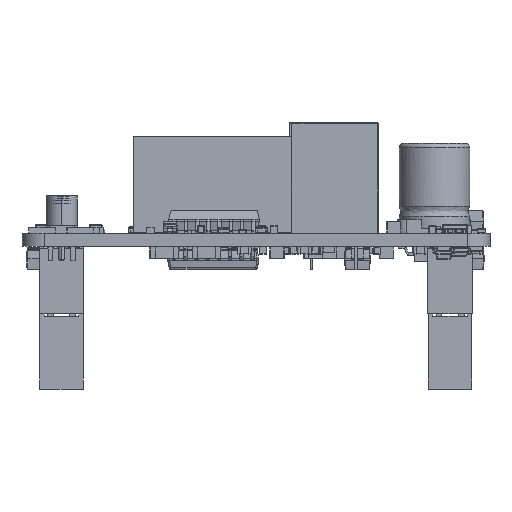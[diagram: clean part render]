
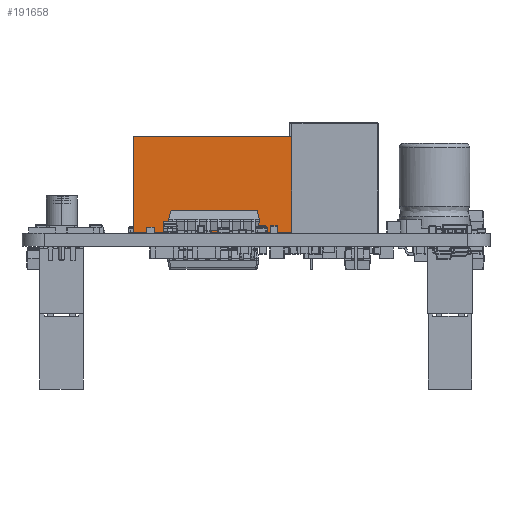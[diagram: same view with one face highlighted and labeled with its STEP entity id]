
A CAD part, front view. The second image highlights one B-rep face of the part: STEP entity #191658.
In plain terms, the highlighted planar face has unit normal (0, -1, 0).
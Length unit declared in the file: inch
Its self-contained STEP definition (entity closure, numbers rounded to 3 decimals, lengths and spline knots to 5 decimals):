
#1472 = DIRECTION ( 'NONE',  ( 0., 0., 1. ) ) ;
#30719 = VERTEX_POINT ( 'NONE', #318098 ) ;
#49314 = CARTESIAN_POINT ( 'NONE',  ( 0.54764, -0.17323, 0.00394 ) ) ;
#80410 = DIRECTION ( 'NONE',  ( -1., 0., 0. ) ) ;
#82061 = VECTOR ( 'NONE', #1472, 39.37008 ) ;
#99097 = CARTESIAN_POINT ( 'NONE',  ( 0.54764, -0.17323, 0.43386 ) ) ;
#99483 = LINE ( 'NONE', #232811, #82061 ) ;
#101619 = PLANE ( 'NONE',  #103014 ) ;
#103014 = AXIS2_PLACEMENT_3D ( 'NONE', #49314, #278882, #125246 ) ;
#108054 = EDGE_CURVE ( 'NONE', #129536, #30719, #218525, .T. ) ;
#120526 = CARTESIAN_POINT ( 'NONE',  ( -0.54764, -0.17323, 0.00394 ) ) ;
#125246 = DIRECTION ( 'NONE',  ( 0., 0., -1. ) ) ;
#127759 = VERTEX_POINT ( 'NONE', #232748 ) ;
#129536 = VERTEX_POINT ( 'NONE', #227006 ) ;
#135218 = VERTEX_POINT ( 'NONE', #283375 ) ;
#159105 = EDGE_CURVE ( 'NONE', #30719, #127759, #225246, .T. ) ;
#185577 = ORIENTED_EDGE ( 'NONE', *, *, #304203, .T. ) ;
#191658 = ADVANCED_FACE ( 'NONE', ( #332929 ), #101619, .T. ) ;
#218525 = LINE ( 'NONE', #247169, #305553 ) ;
#223554 = DIRECTION ( 'NONE',  ( 0., 0., 1. ) ) ;
#225246 = LINE ( 'NONE', #120526, #327979 ) ;
#227006 = CARTESIAN_POINT ( 'NONE',  ( 0.54764, -0.17323, 0.00394 ) ) ;
#232748 = CARTESIAN_POINT ( 'NONE',  ( -0.54764, -0.17323, 0.43386 ) ) ;
#232811 = CARTESIAN_POINT ( 'NONE',  ( 0.54764, -0.17323, 0.00394 ) ) ;
#247169 = CARTESIAN_POINT ( 'NONE',  ( 0.54764, -0.17323, 0.00394 ) ) ;
#265024 = VECTOR ( 'NONE', #80410, 39.37008 ) ;
#272446 = DIRECTION ( 'NONE',  ( -1., 0., 0. ) ) ;
#278882 = DIRECTION ( 'NONE',  ( 0., -1., 0. ) ) ;
#281368 = LINE ( 'NONE', #99097, #265024 ) ;
#283375 = CARTESIAN_POINT ( 'NONE',  ( 0.54764, -0.17323, 0.43386 ) ) ;
#285726 = EDGE_LOOP ( 'NONE', ( #185577, #309382, #324039, #291765 ) ) ;
#291765 = ORIENTED_EDGE ( 'NONE', *, *, #108054, .F. ) ;
#304203 = EDGE_CURVE ( 'NONE', #129536, #135218, #99483, .T. ) ;
#305553 = VECTOR ( 'NONE', #272446, 39.37008 ) ;
#309382 = ORIENTED_EDGE ( 'NONE', *, *, #320943, .T. ) ;
#318098 = CARTESIAN_POINT ( 'NONE',  ( -0.54764, -0.17323, 0.00394 ) ) ;
#320943 = EDGE_CURVE ( 'NONE', #135218, #127759, #281368, .T. ) ;
#324039 = ORIENTED_EDGE ( 'NONE', *, *, #159105, .F. ) ;
#327979 = VECTOR ( 'NONE', #223554, 39.37008 ) ;
#332929 = FACE_OUTER_BOUND ( 'NONE', #285726, .T. ) ;
